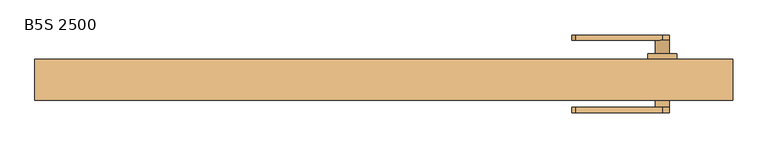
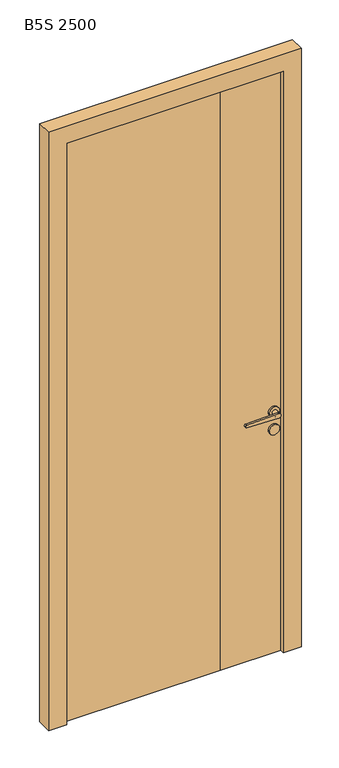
"""IFC4 building model written with IfcOpenShell, lengths in millimetres: door geometry, Mobiliário_Mobiliário de Escritório_Porta de Giro Emoldurada - BS_Marelli : B5S 2500."""

from ifc_helpers import new_model, si_unit, point, frame, frame_2d, origin, place, context, project, spatial, polyline, circle_curve, trimmed, segment, composite_curve, outline, extrude, faceted_brep, source, transform, mapped, element, save
from ifc_brep_helpers import plane_surface, cylinder_surface, advanced_brep


def b5s_2500_13a7fe8a(model_context):
    return source(origin(), model_context, "Body", "SolidModel", [
        extrude(outline(polyline([(-447.5, 16.5), (152.5, 16.5), (447.5, 16.5), (447.5, -25.5), (190.5, -25.5), (-447.5, -25.5), (-447.5, 16.5)])), frame((0.0, 0.0, 0.2), z_axis=(0.0, 0.0, 1.0), x_axis=(1.0, 0.0, 0.0)), (0.0, 0.0, 1.0), 2448.3),
        faceted_brep([(-500.0, -42.5, 0.0), (-500.0, 16.5, 0.0), (-450.0, 16.5, 0.0), (-450.0, -27.0, 0.0), (-429.0, -27.0, 0.0), (-429.0, -42.5, 0.0), (500.0, -42.5, 0.0), (429.0, -42.5, 0.0), (429.0, -27.0, 0.0), (450.0, -27.0, 0.0), (450.0, 16.5, 0.0), (500.0, 16.5, 0.0), (-500.0, -42.5, 2500.0), (-500.0, 16.5, 2500.0), (500.0, 16.5, 2500.0), (450.0, 16.5, 2450.0), (-450.0, 16.5, 2450.0), (-450.0, -27.0, 2450.0), (450.0, -27.0, 2450.0), (429.0, -27.0, 2429.0), (-429.0, -27.0, 2429.0), (-429.0, -42.5, 2429.0), (500.0, -42.5, 2500.0), (429.0, -42.5, 2429.0)], [[[0, 1, 2, 3, 4, 5]], [[6, 7, 8, 9, 10, 11]], [[0, 12, 13, 1]], [[13, 14, 11, 10, 15, 16, 2, 1]], [[17, 3, 2, 16]], [[4, 3, 17, 18, 9, 8, 19, 20]], [[5, 4, 20, 21]], [[22, 12, 0, 5, 21, 23, 7, 6]], [[8, 7, 23, 19]], [[10, 9, 18, 15]], [[14, 22, 6, 11]], [[22, 14, 13, 12]], [[20, 19, 23, 21]], [[16, 15, 18, 17]]]),
        extrude(outline(composite_curve([segment(trimmed(circle_curve(frame_2d((936.55, 399.5)), 20.75), [point((936.55, 378.75))], [point((936.55, 420.25))], False, "CARTESIAN"), True, "CONTINUOUS"), segment(trimmed(circle_curve(frame_2d((936.55, 399.5)), 20.75), [point((936.55, 420.25))], [point((936.55, 378.75))], False, "CARTESIAN"), True, "CONTINUOUS")], self_intersect=False)), frame((0.0, 16.5, 0.0), z_axis=(0.0, 1.0, 0.0), x_axis=(0.0, 0.0, 1.0)), (0.0, 0.0, 1.0), 8.0),
        extrude(outline(composite_curve([segment(trimmed(circle_curve(frame_2d((936.55, 399.5)), 20.75), [point((936.55, 378.75))], [point((936.55, 420.25))], False, "CARTESIAN"), True, "CONTINUOUS"), segment(trimmed(circle_curve(frame_2d((936.55, 399.5)), 20.75), [point((936.55, 420.25))], [point((936.55, 378.75))], False, "CARTESIAN"), True, "CONTINUOUS")], self_intersect=False)), frame((0.0, -33.5, 0.0), z_axis=(0.0, 1.0, 0.0), x_axis=(0.0, 0.0, 1.0)), (0.0, 0.0, 1.0), 8.0),
        extrude(outline(composite_curve([segment(trimmed(circle_curve(frame_2d((1010.25, 399.5)), 20.75), [point((1010.25, 378.75))], [point((1010.25, 420.25))], False, "CARTESIAN"), True, "CONTINUOUS"), segment(trimmed(circle_curve(frame_2d((1010.25, 399.5)), 20.75), [point((1010.25, 420.25))], [point((1010.25, 378.75))], False, "CARTESIAN"), True, "CONTINUOUS")], self_intersect=False)), frame((0.0, -33.5, 0.0), z_axis=(0.0, 1.0, 0.0), x_axis=(0.0, 0.0, 1.0)), (0.0, 0.0, 1.0), 8.0),
        extrude(outline(composite_curve([segment(trimmed(circle_curve(frame_2d((1010.25, 399.5)), 20.75), [point((1010.25, 378.75))], [point((1010.25, 420.25))], False, "CARTESIAN"), True, "CONTINUOUS"), segment(trimmed(circle_curve(frame_2d((1010.25, 399.5)), 20.75), [point((1010.25, 420.25))], [point((1010.25, 378.75))], False, "CARTESIAN"), True, "CONTINUOUS")], self_intersect=False)), frame((0.0, 16.5, 0.0), z_axis=(0.0, 1.0, 0.0), x_axis=(0.0, 0.0, 1.0)), (0.0, 0.0, 1.0), 8.0),
        advanced_brep(
        [(389.5, 24.5, 1010.25), (409.5, 24.5, 1010.25), (409.5, 43.5, 1010.25), (399.0996794, 43.5, 1020.241984), (389.5, 43.5, 1010.25), (399.0996794, 43.5, 1000.258016), (274.5, 43.5, 1015.25), (274.5, 43.5, 1005.25), (399.0996794, 51.15, 1000.258016), (274.5, 51.15, 1005.25), (274.5, 51.15, 1015.25), (399.0996794, 51.15, 1020.241984)],
        [
            (0, 1, circle_curve(frame((399.5, 24.5, 1010.25), z_axis=(0.0, -1.0, 0.0), x_axis=(1.0, 0.0, 0.0)), 10.0)),
            (1, 0, circle_curve(frame((399.5, 24.5, 1010.25), z_axis=(0.0, -1.0, 0.0), x_axis=(1.0, 0.0, 0.0)), 10.0)),
            (1, 2),
            (2, 3, circle_curve(frame((399.5, 43.5, 1010.25), z_axis=(0.0, -1.0, 0.0), x_axis=(1.0, 0.0, 0.0)), 10.0)),
            (3, 4, circle_curve(frame((399.5, 43.5, 1010.25), z_axis=(0.0, -1.0, 0.0), x_axis=(1.0, 0.0, 0.0)), 10.0)),
            (4, 0),
            (4, 5, circle_curve(frame((399.5, 43.5, 1010.25), z_axis=(0.0, -1.0, 0.0), x_axis=(1.0, 0.0, 0.0)), 10.0)),
            (5, 2, circle_curve(frame((399.5, 43.5, 1010.25), z_axis=(0.0, -1.0, 0.0), x_axis=(1.0, 0.0, 0.0)), 10.0)),
            (3, 6),
            (6, 7, circle_curve(frame((274.5, 43.5, 1010.25), z_axis=(0.0, -1.0, 0.0), x_axis=(1.0, 0.0, 0.0)), 5.0)),
            (7, 5),
            (8, 9),
            (9, 10, circle_curve(frame((274.5, 51.15, 1010.25), z_axis=(0.0, 1.0, 0.0), x_axis=(1.0, 0.0, 0.0)), 5.0)),
            (10, 11),
            (11, 8, circle_curve(frame((399.5, 51.15, 1010.25), z_axis=(0.0, 1.0, 0.0), x_axis=(1.0, 0.0, 0.0)), 10.0)),
            (7, 9),
            (8, 5),
            (6, 10),
            (3, 11),
        ],
        [
            plane_surface(frame((409.5, 24.5, 1010.25), z_axis=(0.0, -1.0, 0.0), x_axis=(0.0, 0.0, 1.0))),
            cylinder_surface(frame((399.5, 24.5, 1010.25), z_axis=(0.0, 1.0, 0.0), x_axis=(1.0, 0.0, 0.0)), 10.0),
            plane_surface(frame((399.0996794, 43.5, 1000.258016), z_axis=(0.0, -1.0, 0.0), x_axis=(0.9991983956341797, 0.0, -0.04003206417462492))),
            plane_surface(frame((399.0996794, 51.15, 1000.258016), z_axis=(0.0, 1.0, 0.0), x_axis=(-0.9991983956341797, 0.0, 0.04003206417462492))),
            plane_surface(frame((399.0996794, 51.15, 1000.258016), z_axis=(-0.04003206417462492, 0.0, -0.9991983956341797), x_axis=(0.0, -1.0, 0.0))),
            cylinder_surface(frame((274.5, 43.5, 1010.25), z_axis=(0.0, 1.0, 0.0), x_axis=(1.0, 0.0, 0.0)), 5.0),
            plane_surface(frame((274.5, 51.15, 1015.25), z_axis=(-0.04003206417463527, 0.0, 0.9991983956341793), x_axis=(0.0, -1.0, 0.0))),
            cylinder_surface(frame((399.5, 43.5, 1010.25), z_axis=(0.0, 1.0, 0.0), x_axis=(1.0, 0.0, 0.0)), 10.0),
        ],
        [
            (0, [[1, 2]]),
            (1, [[-2, 3, 4, 5, 6]]),
            (1, [[-1, -6, 7, 8, -3]]),
            (2, [[9, 10, 11, -7, -5]]),
            (3, [[12, 13, 14, 15]]),
            (4, [[-11, 16, -12, 17]]),
            (5, [[-10, 18, -13, -16]]),
            (6, [[-9, 19, -14, -18]]),
            (7, [[-15, -19, -4, -8, -17]]),
        ],
    ),
        advanced_brep(
        [(399.0996794, -52.5, 1000.258016), (274.5, -52.5, 1005.25), (274.5, -52.5, 1015.25), (399.0996794, -52.5, 1020.241984), (389.5, -52.5, 1010.25), (399.0996794, -60.15, 1000.258016), (399.0996794, -60.15, 1020.241984), (274.5, -60.15, 1015.25), (274.5, -60.15, 1005.25), (409.5, -52.5, 1010.25), (389.5, -33.5, 1010.25), (409.5, -33.5, 1010.25)],
        [
            (0, 1),
            (1, 2, circle_curve(frame((274.5, -52.5, 1010.25), z_axis=(0.0, 1.0, 0.0), x_axis=(1.0, 0.0, 0.0)), 5.0)),
            (2, 3),
            (3, 4, circle_curve(frame((399.5, -52.5, 1010.25), z_axis=(0.0, -1.0, 0.0), x_axis=(1.0, 0.0, 0.0)), 10.0)),
            (4, 0, circle_curve(frame((399.5, -52.5, 1010.25), z_axis=(0.0, -1.0, 0.0), x_axis=(1.0, 0.0, 0.0)), 10.0)),
            (5, 6, circle_curve(frame((399.5, -60.15, 1010.25), z_axis=(0.0, -1.0, 0.0), x_axis=(1.0, 0.0, 0.0)), 10.0)),
            (6, 7),
            (7, 8, circle_curve(frame((274.5, -60.15, 1010.25), z_axis=(0.0, -1.0, 0.0), x_axis=(1.0, 0.0, 0.0)), 5.0)),
            (8, 5),
            (0, 5),
            (8, 1),
            (7, 2),
            (6, 3),
            (0, 9, circle_curve(frame((399.5, -52.5, 1010.25), z_axis=(0.0, -1.0, 0.0), x_axis=(1.0, 0.0, 0.0)), 10.0)),
            (9, 3, circle_curve(frame((399.5, -52.5, 1010.25), z_axis=(0.0, -1.0, 0.0), x_axis=(1.0, 0.0, 0.0)), 10.0)),
            (10, 11, circle_curve(frame((399.5, -33.5, 1010.25), z_axis=(0.0, 1.0, 0.0), x_axis=(1.0, 0.0, 0.0)), 10.0)),
            (11, 10, circle_curve(frame((399.5, -33.5, 1010.25), z_axis=(0.0, 1.0, 0.0), x_axis=(1.0, 0.0, 0.0)), 10.0)),
            (10, 4),
            (9, 11),
        ],
        [
            plane_surface(frame((409.5, -52.5, 1010.25), z_axis=(0.0, 1.0, 0.0), x_axis=(0.0, 0.0, -1.0))),
            plane_surface(frame((409.5, -60.15, 1010.25), z_axis=(0.0, -1.0, 0.0), x_axis=(0.0, 0.0, 1.0))),
            plane_surface(frame((274.5, -60.15, 1005.25), z_axis=(-0.04003206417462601, 0.0, -0.9991983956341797), x_axis=(0.0, 1.0, 0.0))),
            cylinder_surface(frame((274.5, -52.5, 1010.25), z_axis=(0.0, -1.0, 0.0), x_axis=(1.0, 0.0, 0.0)), 5.0),
            plane_surface(frame((399.0996794, -60.15, 1020.241984), z_axis=(-0.04003206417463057, 0.0, 0.9991983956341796), x_axis=(0.0, 1.0, 0.0))),
            cylinder_surface(frame((399.5, -52.5, 1010.25), z_axis=(0.0, -1.0, 0.0), x_axis=(1.0, 0.0, 0.0)), 10.0),
            plane_surface(frame((409.5, -33.5, 1010.25), z_axis=(0.0, 1.0, 0.0), x_axis=(0.0, 0.0, -1.0))),
            cylinder_surface(frame((399.5, -33.5, 1010.25), z_axis=(0.0, -1.0, 0.0), x_axis=(1.0, 0.0, 0.0)), 10.0),
        ],
        [
            (0, [[1, 2, 3, 4, 5]]),
            (1, [[6, 7, 8, 9]]),
            (2, [[-1, 10, -9, 11]]),
            (3, [[-2, -11, -8, 12]]),
            (4, [[-3, -12, -7, 13]]),
            (5, [[-6, -10, 14, 15, -13]]),
            (6, [[16, 17]]),
            (7, [[-16, 18, -4, -15, 19]]),
            (7, [[-17, -19, -14, -5, -18]]),
        ],
    ),
    ])


if __name__ == "__main__":
    model = new_model("IFC4")
    model_context = context("Model", 3, world=origin())
    ifc_project = project(units=[si_unit("LENGTHUNIT", "METRE", prefix="MILLI")], contexts=[model_context])
    site = spatial("IfcSite", under=ifc_project)
    building = spatial("IfcBuilding", under=site)
    placement = place(None, origin())
    b5s_2500_shape = b5s_2500_13a7fe8a(model_context)
    element("IfcDoor", 1, ObjectType="Mobiliário_Mobiliário de Escritório_Porta de Giro Emoldurada - BS_Marelli : B5S 2500", at=placement, inside=building, context=model_context, shape_type="MappedRepresentation", body=[
        mapped(b5s_2500_shape, transform((0.0, 0.0, 0.0), x_axis=(1.0, 0.0, 0.0), y_axis=(0.0, 1.0, 0.0), z_axis=(0.0, 0.0, 1.0))),
    ])
    save(model, "model.ifc")
